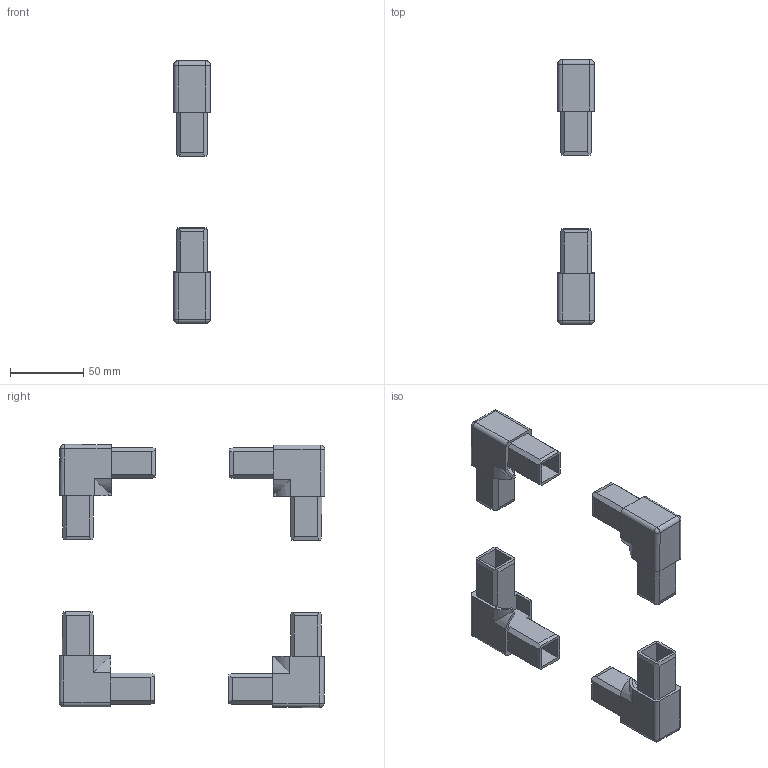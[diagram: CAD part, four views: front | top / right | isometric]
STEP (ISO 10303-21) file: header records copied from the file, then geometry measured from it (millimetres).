
FILE_DESCRIPTION (( 'STEP AP214' ), '1' );
FILE_NAME ('L15830 ENS.step', '2024-12-03T16:21:58', ( '' ), ( '' ), 'SwSTEP 2.0', 'SolidWorks 2023', '' );
FILE_SCHEMA (( 'AUTOMOTIVE_DESIGN' ));
Length unit declared in the file: millimetre
Products named in the file (2): L15830 ENS; L15830
Assembly tree (4 placements, depth 2):
  L15830 ENS
    L15830  x4
Bounding box: 25 x 181.11 x 179.47 mm (x, y, z)
Volume: 95097.9 mm3; surface area: 83248.4 mm2
Topology: 4 solids, 16 shells, 368 faces, 932 edges, 596 vertices
Faces by surface type: plane 236, cylinder 116, torus 8, sphere 8
Full cylindrical faces by diameter (mm): 7 x16, 10 x16
Entity records: 2965 total; most frequent: CARTESIAN_POINT 756, ORIENTED_EDGE 438, DIRECTION 435, EDGE_CURVE 219, LINE 171, VECTOR 171, VERTEX_POINT 145, AXIS2_PLACEMENT_3D 132
